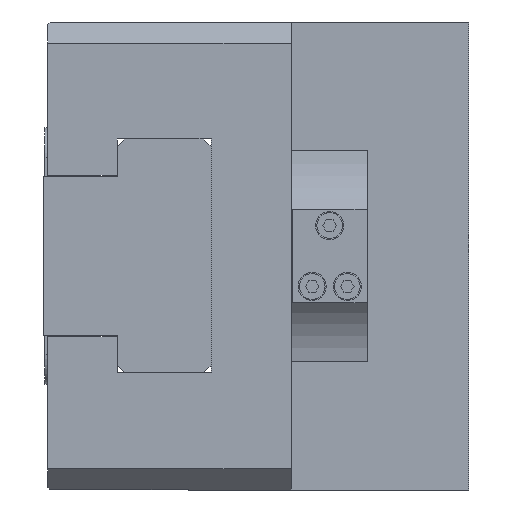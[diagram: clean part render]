
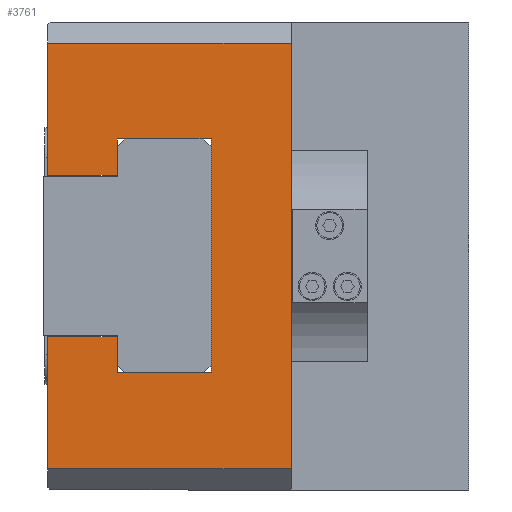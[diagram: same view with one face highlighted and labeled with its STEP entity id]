
A CAD part, left-side view. The second image highlights one B-rep face of the part: STEP entity #3761.
In plain terms, the highlighted planar face has unit normal (-1, 0, 0).
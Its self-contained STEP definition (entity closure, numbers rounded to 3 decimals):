
#340 = DIRECTION ( 'NONE',  ( 0., 0.707, -0.707 ) ) ;
#358 = LINE ( 'NONE', #875, #9806 ) ;
#644 = VECTOR ( 'NONE', #14596, 1000. ) ;
#658 = LINE ( 'NONE', #9719, #15744 ) ;
#770 = CARTESIAN_POINT ( 'NONE',  ( -100., 90., -45.5 ) ) ;
#875 = CARTESIAN_POINT ( 'NONE',  ( -100., 55.1, 25. ) ) ;
#970 = VERTEX_POINT ( 'NONE', #770 ) ;
#1134 = ORIENTED_EDGE ( 'NONE', *, *, #5996, .F. ) ;
#1484 = CARTESIAN_POINT ( 'NONE',  ( -100., 90., 17.25 ) ) ;
#1692 = EDGE_CURVE ( 'NONE', #5026, #16162, #15002, .T. ) ;
#1717 = EDGE_CURVE ( 'NONE', #970, #8779, #14600, .T. ) ;
#1781 = ORIENTED_EDGE ( 'NONE', *, *, #4778, .F. ) ;
#1930 = ORIENTED_EDGE ( 'NONE', *, *, #12747, .F. ) ;
#1937 = CARTESIAN_POINT ( 'NONE',  ( -100., 0., 0. ) ) ;
#2043 = CARTESIAN_POINT ( 'NONE',  ( -100., 75.4, -17.25 ) ) ;
#2112 = CARTESIAN_POINT ( 'NONE',  ( -100., 75.1, -17.55 ) ) ;
#2265 = CARTESIAN_POINT ( 'NONE',  ( -100., 90., 45.5 ) ) ;
#2384 = VERTEX_POINT ( 'NONE', #7747 ) ;
#2412 = CARTESIAN_POINT ( 'NONE',  ( -100., 0., -45.5 ) ) ;
#2504 = DIRECTION ( 'NONE',  ( 0., -1., 0. ) ) ;
#3110 = PLANE ( 'NONE',  #4643 ) ;
#3215 = VECTOR ( 'NONE', #12836, 1000. ) ;
#3350 = CARTESIAN_POINT ( 'NONE',  ( -100., 75.1, -25. ) ) ;
#3399 = VECTOR ( 'NONE', #5466, 1000. ) ;
#3590 = ORIENTED_EDGE ( 'NONE', *, *, #7152, .F. ) ;
#3694 = FACE_OUTER_BOUND ( 'NONE', #7315, .T. ) ;
#3761 = ADVANCED_FACE ( 'NONE', ( #3694 ), #3110, .F. ) ;
#3764 = CARTESIAN_POINT ( 'NONE',  ( -100., 38., -45.5 ) ) ;
#3890 = CARTESIAN_POINT ( 'NONE',  ( -100., 75.1, -17.55 ) ) ;
#4292 = ORIENTED_EDGE ( 'NONE', *, *, #5330, .F. ) ;
#4331 = EDGE_CURVE ( 'NONE', #15392, #5486, #658, .T. ) ;
#4445 = LINE ( 'NONE', #5475, #644 ) ;
#4555 = DIRECTION ( 'NONE',  ( 0., 0., 1. ) ) ;
#4643 = AXIS2_PLACEMENT_3D ( 'NONE', #1937, #12121, #14688 ) ;
#4778 = EDGE_CURVE ( 'NONE', #2384, #9748, #4445, .T. ) ;
#4816 = DIRECTION ( 'NONE',  ( 0., 0., -1. ) ) ;
#5026 = VERTEX_POINT ( 'NONE', #2265 ) ;
#5330 = EDGE_CURVE ( 'NONE', #5567, #15952, #11695, .T. ) ;
#5466 = DIRECTION ( 'NONE',  ( 0., 0., 1. ) ) ;
#5475 = CARTESIAN_POINT ( 'NONE',  ( -100., 90., -17.25 ) ) ;
#5486 = VERTEX_POINT ( 'NONE', #6942 ) ;
#5533 = ORIENTED_EDGE ( 'NONE', *, *, #12243, .F. ) ;
#5567 = VERTEX_POINT ( 'NONE', #3350 ) ;
#5843 = VECTOR ( 'NONE', #9286, 1000. ) ;
#5996 = EDGE_CURVE ( 'NONE', #13895, #5026, #12072, .T. ) ;
#6216 = DIRECTION ( 'NONE',  ( 0., 0., 1. ) ) ;
#6382 = LINE ( 'NONE', #2043, #8587 ) ;
#6515 = ORIENTED_EDGE ( 'NONE', *, *, #1717, .T. ) ;
#6573 = LINE ( 'NONE', #9051, #11803 ) ;
#6643 = DIRECTION ( 'NONE',  ( 0., 1., 0. ) ) ;
#6942 = CARTESIAN_POINT ( 'NONE',  ( -100., 75.1, 17.55 ) ) ;
#6985 = CARTESIAN_POINT ( 'NONE',  ( -100., 90., 17.25 ) ) ;
#7152 = EDGE_CURVE ( 'NONE', #9748, #16196, #6382, .T. ) ;
#7280 = VECTOR ( 'NONE', #6216, 1000. ) ;
#7315 = EDGE_LOOP ( 'NONE', ( #13278, #6515, #14258, #16315, #1134, #13003, #1930, #14543, #9165, #5533, #4292, #10967, #3590, #1781 ) ) ;
#7419 = EDGE_CURVE ( 'NONE', #15567, #13895, #6573, .T. ) ;
#7592 = DIRECTION ( 'NONE',  ( 0., -1., 0. ) ) ;
#7747 = CARTESIAN_POINT ( 'NONE',  ( -100., 90., -17.25 ) ) ;
#7754 = VECTOR ( 'NONE', #7592, 1000. ) ;
#8152 = VECTOR ( 'NONE', #2504, 1000. ) ;
#8194 = DIRECTION ( 'NONE',  ( 0., 0., -1. ) ) ;
#8587 = VECTOR ( 'NONE', #14965, 1000. ) ;
#8779 = VERTEX_POINT ( 'NONE', #3764 ) ;
#9051 = CARTESIAN_POINT ( 'NONE',  ( -100., 75.4, 17.25 ) ) ;
#9165 = ORIENTED_EDGE ( 'NONE', *, *, #16171, .F. ) ;
#9231 = LINE ( 'NONE', #3890, #3215 ) ;
#9283 = LINE ( 'NONE', #10673, #14910 ) ;
#9286 = DIRECTION ( 'NONE',  ( 0., -1., 0. ) ) ;
#9367 = CARTESIAN_POINT ( 'NONE',  ( -100., 55.1, -25. ) ) ;
#9478 = LINE ( 'NONE', #11296, #7280 ) ;
#9704 = CARTESIAN_POINT ( 'NONE',  ( -100., 38., 45.5 ) ) ;
#9719 = CARTESIAN_POINT ( 'NONE',  ( -100., 75.1, 25. ) ) ;
#9748 = VERTEX_POINT ( 'NONE', #14973 ) ;
#9806 = VECTOR ( 'NONE', #12299, 1000. ) ;
#9889 = VERTEX_POINT ( 'NONE', #10078 ) ;
#9919 = VECTOR ( 'NONE', #4816, 1000. ) ;
#10078 = CARTESIAN_POINT ( 'NONE',  ( -100., 55.1, 25. ) ) ;
#10159 = CARTESIAN_POINT ( 'NONE',  ( -100., 90., 45.5 ) ) ;
#10673 = CARTESIAN_POINT ( 'NONE',  ( -100., 75.1, 17.55 ) ) ;
#10967 = ORIENTED_EDGE ( 'NONE', *, *, #14581, .F. ) ;
#11296 = CARTESIAN_POINT ( 'NONE',  ( -100., 90., -50. ) ) ;
#11695 = LINE ( 'NONE', #13001, #5843 ) ;
#11803 = VECTOR ( 'NONE', #6643, 1000. ) ;
#11873 = CARTESIAN_POINT ( 'NONE',  ( -100., 75.1, 25. ) ) ;
#12072 = LINE ( 'NONE', #1484, #3399 ) ;
#12121 = DIRECTION ( 'NONE',  ( 1., 0., 0. ) ) ;
#12243 = EDGE_CURVE ( 'NONE', #15952, #9889, #13718, .T. ) ;
#12275 = CARTESIAN_POINT ( 'NONE',  ( -100., 55.1, -25. ) ) ;
#12299 = DIRECTION ( 'NONE',  ( 0., 1., 0. ) ) ;
#12482 = CARTESIAN_POINT ( 'NONE',  ( -100., 75.4, 17.25 ) ) ;
#12747 = EDGE_CURVE ( 'NONE', #5486, #15567, #9283, .T. ) ;
#12836 = DIRECTION ( 'NONE',  ( 0., 0., -1. ) ) ;
#12915 = EDGE_CURVE ( 'NONE', #970, #2384, #9478, .T. ) ;
#13001 = CARTESIAN_POINT ( 'NONE',  ( -100., 75.1, -25. ) ) ;
#13003 = ORIENTED_EDGE ( 'NONE', *, *, #7419, .F. ) ;
#13278 = ORIENTED_EDGE ( 'NONE', *, *, #12915, .F. ) ;
#13703 = CARTESIAN_POINT ( 'NONE',  ( -100., 38., 50. ) ) ;
#13718 = LINE ( 'NONE', #12275, #16139 ) ;
#13895 = VERTEX_POINT ( 'NONE', #6985 ) ;
#14027 = EDGE_CURVE ( 'NONE', #16162, #8779, #15782, .T. ) ;
#14258 = ORIENTED_EDGE ( 'NONE', *, *, #14027, .F. ) ;
#14543 = ORIENTED_EDGE ( 'NONE', *, *, #4331, .F. ) ;
#14581 = EDGE_CURVE ( 'NONE', #16196, #5567, #9231, .T. ) ;
#14596 = DIRECTION ( 'NONE',  ( 0., -1., 0. ) ) ;
#14600 = LINE ( 'NONE', #2412, #7754 ) ;
#14688 = DIRECTION ( 'NONE',  ( 0., 0., -1. ) ) ;
#14910 = VECTOR ( 'NONE', #340, 1000. ) ;
#14965 = DIRECTION ( 'NONE',  ( 0., -0.707, -0.707 ) ) ;
#14973 = CARTESIAN_POINT ( 'NONE',  ( -100., 75.4, -17.25 ) ) ;
#15002 = LINE ( 'NONE', #10159, #8152 ) ;
#15392 = VERTEX_POINT ( 'NONE', #11873 ) ;
#15567 = VERTEX_POINT ( 'NONE', #12482 ) ;
#15744 = VECTOR ( 'NONE', #8194, 1000. ) ;
#15782 = LINE ( 'NONE', #13703, #9919 ) ;
#15952 = VERTEX_POINT ( 'NONE', #9367 ) ;
#16139 = VECTOR ( 'NONE', #4555, 1000. ) ;
#16162 = VERTEX_POINT ( 'NONE', #9704 ) ;
#16171 = EDGE_CURVE ( 'NONE', #9889, #15392, #358, .T. ) ;
#16196 = VERTEX_POINT ( 'NONE', #2112 ) ;
#16315 = ORIENTED_EDGE ( 'NONE', *, *, #1692, .F. ) ;
